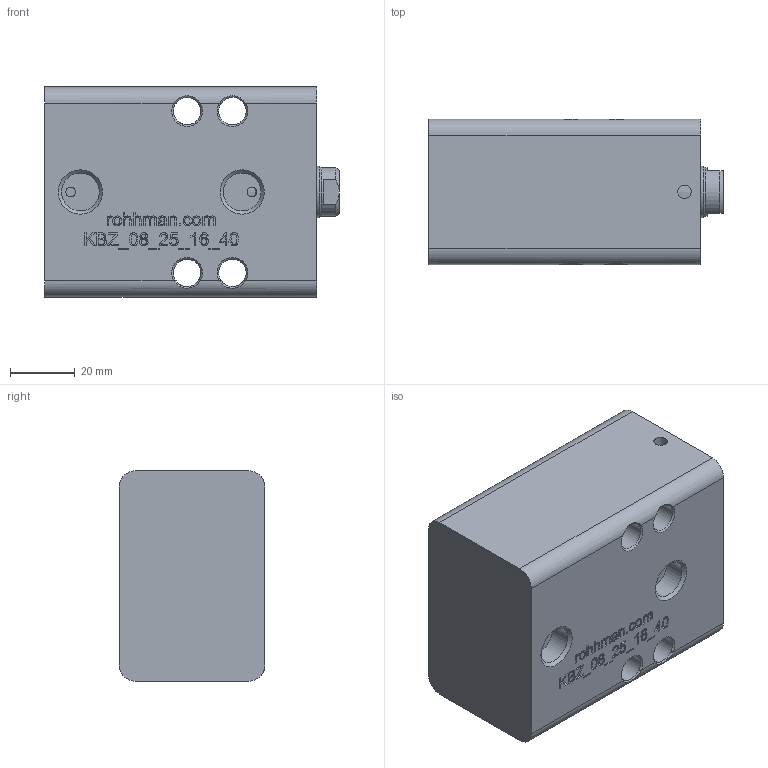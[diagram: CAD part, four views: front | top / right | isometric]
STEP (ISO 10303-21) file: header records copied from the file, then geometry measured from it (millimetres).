
FILE_DESCRIPTION(/* description */ (''),/* implementation_level */ '2;1');
FILE_NAME(/* name */ 'KBZ_08_25_16_40_WEB.step',/* time_stamp */ '2022-12-25T12:32:52+03:00',/* author */ (''),/* organization */ (''),/* preprocessor_version */ 'ST-DEVELOPER v19.2',/* originating_system */ 'Autodesk Translation Framework v11.17.0.187',/* authorisation */ '');
FILE_SCHEMA (('AUTOMOTIVE_DESIGN { 1 0 10303 214 3 1 1 }'));
Length unit declared in the file: millimetre
Products named in the file (7): KBZ_08_25_16_50_WEB; KBZ_03_25_16_ÖN_KAPAK; KBZ_03_25_16_ON_KAPAK; KBZ_08_25_16_50_MİL_WEB; Bileşen1; KBZ_08_25_16_50_GÖVDE_WEB; Bileşen1_1
Assembly tree (6 placements, depth 3):
  KBZ_08_25_16_50_WEB
    KBZ_03_25_16_ÖN_KAPAK
      KBZ_03_25_16_ON_KAPAK
    KBZ_08_25_16_50_MİL_WEB
      Bileşen1
    KBZ_08_25_16_50_GÖVDE_WEB
      Bileşen1_1
Bounding box: 91 x 45 x 65 mm (x, y, z)
Volume: 211423.9 mm3; surface area: 41332.7 mm2
Topology: 3 solids, 3 shells, 594 faces, 1607 edges, 1063 vertices
Faces by surface type: bspline 327, plane 210, cylinder 34, cone 23
Full cylindrical faces by diameter (mm): 3 x4, 4.2 x1, 8.5 x5, 10 x1, 11.668 x2, 15 x1, 16 x1, 16.5 x2, 18 x2, 20.5 x1, 21.4 x1, 22.8 x1, 25 x1, 25.5 x2, 26 x1, 32.5 x2, 34 x1, 34.5 x1
Entity records: 22263 total; most frequent: CARTESIAN_POINT 9314, ORIENTED_EDGE 3212, EDGE_CURVE 1606, DIRECTION 1600, VERTEX_POINT 1063, LINE 832, VECTOR 832, B_SPLINE_CURVE_WITH_KNOTS 666
